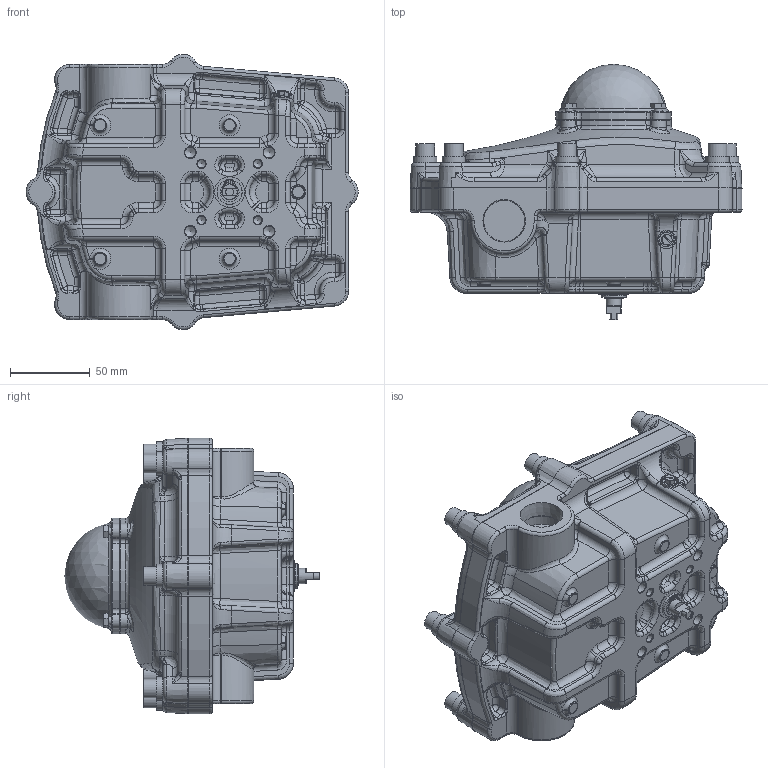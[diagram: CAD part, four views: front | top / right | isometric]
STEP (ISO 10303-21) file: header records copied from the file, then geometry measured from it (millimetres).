
FILE_DESCRIPTION (( 'STEP AP214' ), '1' );
FILE_NAME ('S5C-Simple.STEP', '2019-09-11T18:26:32', ( '' ), ( '' ), 'SwSTEP 2.0', 'SolidWorks 2019', '' );
FILE_SCHEMA (( 'AUTOMOTIVE_DESIGN' ));
Length unit declared in the file: millimetre
Products named in the file (1): S5C-Simple
Bounding box: 208.5 x 160.4 x 172.95 mm (x, y, z)
Volume: 2043064 mm3; surface area: 133641.4 mm2
Topology: 1 solids, 1 shells, 1848 faces, 4330 edges, 2420 vertices
Faces by surface type: bspline 583, cylinder 460, plane 373, torus 252, cone 160, sphere 20
Full cylindrical faces by diameter (mm): 1.27 x2, 5 x4, 5.156 x4, 6.756 x4, 6.807 x1, 8 x4, 8.839 x1, 8.941 x1, 9.525 x2, 9.906 x1, 11.506 x1, 11.78 x8, 12.7 x1, 14.7 x8, 15.748 x1, 19.05 x1, 26.67 x2
Entity records: 108839 total; most frequent: CARTESIAN_POINT 51849, ORIENTED_EDGE 8182, DIRECTION 6941, EDGE_CURVE 4091, AXIS2_PLACEMENT_3D 2894, VERTEX_POINT 2382, EDGE_LOOP 1987, FACE_OUTER_BOUND 1914
